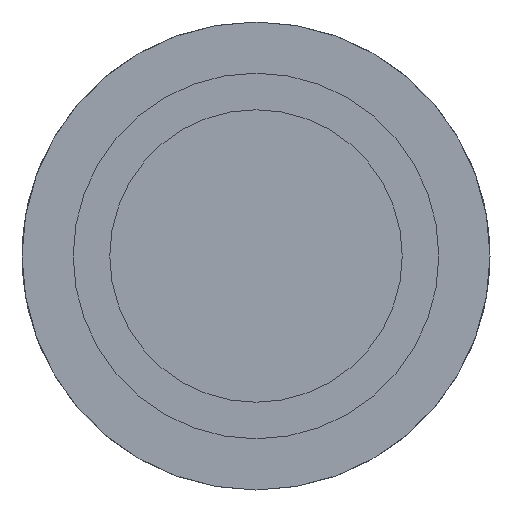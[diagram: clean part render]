
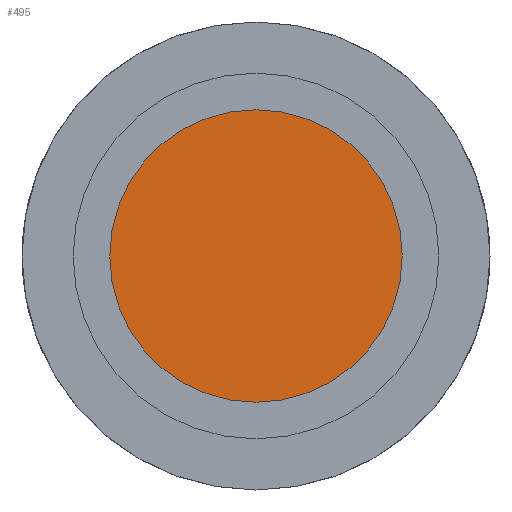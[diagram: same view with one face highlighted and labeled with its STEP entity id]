
A CAD part, left-side view. The second image highlights one B-rep face of the part: STEP entity #495.
In plain terms, the highlighted planar face has unit normal (-1, 0, 0).
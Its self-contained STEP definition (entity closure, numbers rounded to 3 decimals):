
#472=CARTESIAN_POINT('',(0.,0.0,10.));
#473=VERTEX_POINT('',#472);
#474=CARTESIAN_POINT('',(0.0,0.0,0.0));
#475=DIRECTION('',(-1.0,0.0,0.0));
#476=DIRECTION('',(0.0,0.0,1.0));
#477=AXIS2_PLACEMENT_3D('',#474,#475,#476);
#478=CIRCLE('',#477,10.);
#479=EDGE_CURVE('',#473,#473,#478,.T.);
#487=CARTESIAN_POINT('',(0.,0.0,5.));
#488=DIRECTION('',(-1.0,0.0,0.0));
#489=DIRECTION('',(0.0,0.0,1.0));
#490=AXIS2_PLACEMENT_3D('',#487,#488,#489);
#491=PLANE('',#490);
#492=ORIENTED_EDGE('',*,*,#479,.T.);
#493=EDGE_LOOP('',(#492));
#494=FACE_OUTER_BOUND('',#493,.T.);
#495=ADVANCED_FACE('',(#494),#491,.T.);
